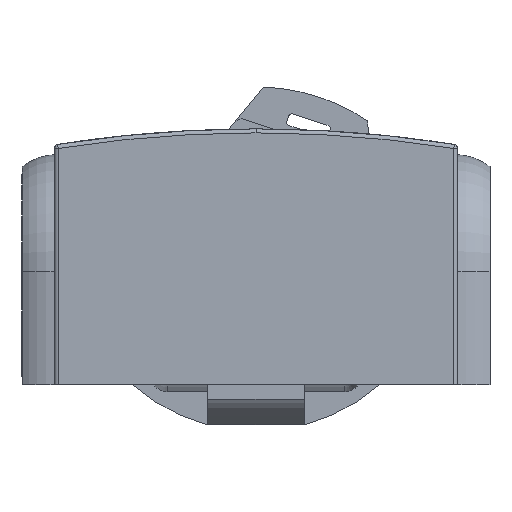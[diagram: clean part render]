
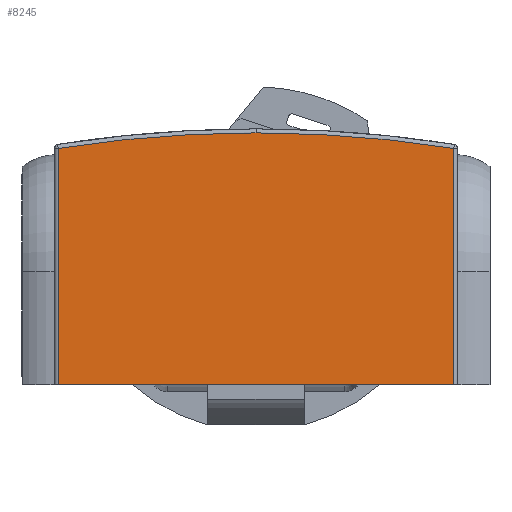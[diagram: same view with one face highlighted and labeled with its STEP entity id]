
A CAD part, front view. The second image highlights one B-rep face of the part: STEP entity #8245.
In plain terms, the highlighted planar face has unit normal (0, -1, 0).
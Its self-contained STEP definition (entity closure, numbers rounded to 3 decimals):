
#842 = DIRECTION ( 'NONE',  ( 0., 0., -1. ) ) ;
#947 = EDGE_CURVE ( 'NONE', #12277, #12071, #20553, .T. ) ;
#2153 = AXIS2_PLACEMENT_3D ( 'NONE', #13178, #13987, #10267 ) ;
#2494 = EDGE_CURVE ( 'NONE', #4082, #16895, #14978, .T. ) ;
#2576 = ORIENTED_EDGE ( 'NONE', *, *, #947, .T. ) ;
#2716 = CARTESIAN_POINT ( 'NONE',  ( 24.5, -26., 29.274 ) ) ;
#3118 = CARTESIAN_POINT ( 'NONE',  ( 24.5, -26., 31.7 ) ) ;
#3747 = EDGE_CURVE ( 'NONE', #4082, #16863, #12449, .T. ) ;
#4082 = VERTEX_POINT ( 'NONE', #2716 ) ;
#4131 = CARTESIAN_POINT ( 'NONE',  ( -24.5, -26., 31.7 ) ) ;
#4746 = CARTESIAN_POINT ( 'NONE',  ( 0., -26., 31.2 ) ) ;
#5071 = DIRECTION ( 'NONE',  ( 0., 0., -1. ) ) ;
#5979 = ORIENTED_EDGE ( 'NONE', *, *, #3747, .T. ) ;
#6220 = EDGE_CURVE ( 'NONE', #12071, #16895, #18678, .T. ) ;
#8245 = ADVANCED_FACE ( 'NONE', ( #16054 ), #19309, .F. ) ;
#9273 = CARTESIAN_POINT ( 'NONE',  ( -24.5, -26., 0. ) ) ;
#9415 = AXIS2_PLACEMENT_3D ( 'NONE', #16294, #22247, #21807 ) ;
#10181 = CIRCLE ( 'NONE', #9415, 156.8 ) ;
#10267 = DIRECTION ( 'NONE',  ( 0., 0., 1. ) ) ;
#10892 = ORIENTED_EDGE ( 'NONE', *, *, #15547, .T. ) ;
#11412 = VECTOR ( 'NONE', #5071, 1000. ) ;
#12071 = VERTEX_POINT ( 'NONE', #9273 ) ;
#12117 = CARTESIAN_POINT ( 'NONE',  ( -24.5, -26., 29.274 ) ) ;
#12277 = VERTEX_POINT ( 'NONE', #12117 ) ;
#12299 = ORIENTED_EDGE ( 'NONE', *, *, #6220, .T. ) ;
#12449 = CIRCLE ( 'NONE', #2153, 156.8 ) ;
#13178 = CARTESIAN_POINT ( 'NONE',  ( 0., -26., -125.6 ) ) ;
#13283 = VECTOR ( 'NONE', #18565, 1000. ) ;
#13732 = CARTESIAN_POINT ( 'NONE',  ( 24.5, -26., 0. ) ) ;
#13987 = DIRECTION ( 'NONE',  ( 0., -1., 0. ) ) ;
#14424 = VECTOR ( 'NONE', #842, 1000. ) ;
#14561 = ORIENTED_EDGE ( 'NONE', *, *, #2494, .F. ) ;
#14804 = AXIS2_PLACEMENT_3D ( 'NONE', #3118, #21212, #23239 ) ;
#14978 = LINE ( 'NONE', #20498, #14424 ) ;
#15547 = EDGE_CURVE ( 'NONE', #16863, #12277, #10181, .T. ) ;
#16054 = FACE_OUTER_BOUND ( 'NONE', #23033, .T. ) ;
#16294 = CARTESIAN_POINT ( 'NONE',  ( 0., -26., -125.6 ) ) ;
#16863 = VERTEX_POINT ( 'NONE', #4746 ) ;
#16895 = VERTEX_POINT ( 'NONE', #13732 ) ;
#18565 = DIRECTION ( 'NONE',  ( 1., 0., 0. ) ) ;
#18678 = LINE ( 'NONE', #20350, #13283 ) ;
#19309 = PLANE ( 'NONE',  #14804 ) ;
#20350 = CARTESIAN_POINT ( 'NONE',  ( 24.5, -26., 0. ) ) ;
#20498 = CARTESIAN_POINT ( 'NONE',  ( 24.5, -26., 31.7 ) ) ;
#20553 = LINE ( 'NONE', #4131, #11412 ) ;
#21212 = DIRECTION ( 'NONE',  ( 0., 1., 0. ) ) ;
#21807 = DIRECTION ( 'NONE',  ( 0., 0., 1. ) ) ;
#22247 = DIRECTION ( 'NONE',  ( 0., -1., 0. ) ) ;
#23033 = EDGE_LOOP ( 'NONE', ( #14561, #5979, #10892, #2576, #12299 ) ) ;
#23239 = DIRECTION ( 'NONE',  ( 0., 0., 1. ) ) ;
